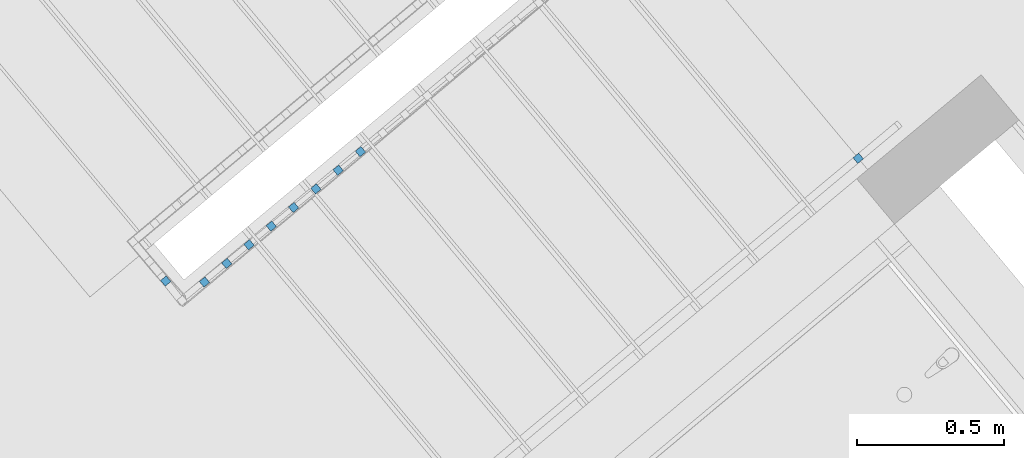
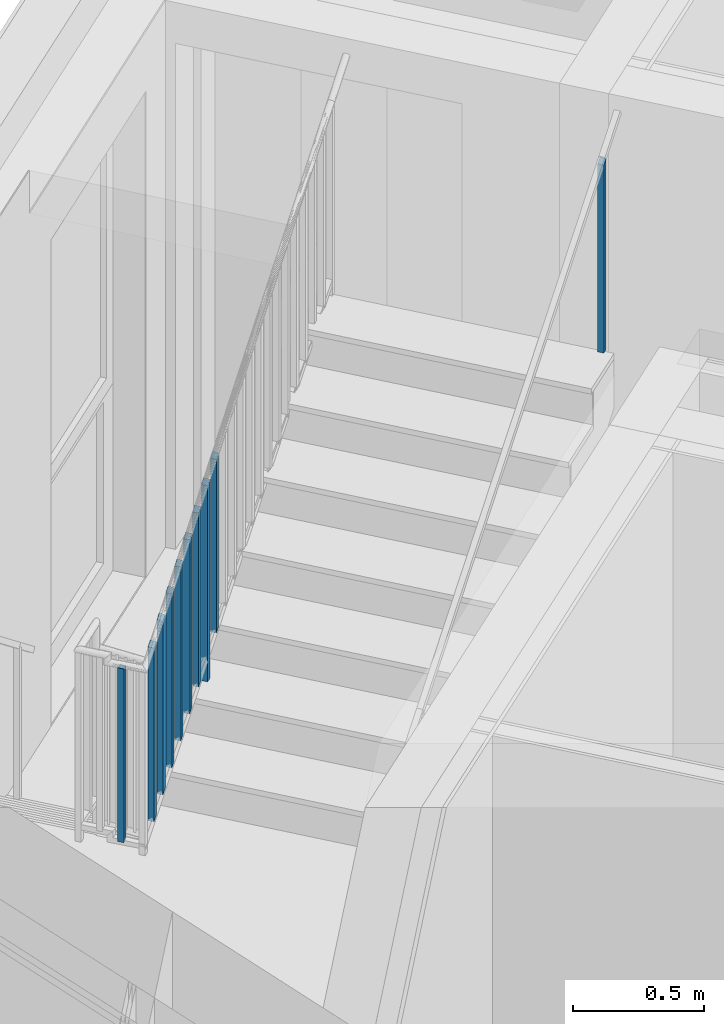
# One storey, part 39 of 50: 10 building element parts, 2 elements without a shape of their own.
"""IFC4 building model written with IfcOpenShell, lengths in metres."""

from ifc_helpers import new_model, entity, si_unit, converted_unit, derived_unit, direction, frame, origin_with_axes, place, context, subcontext, project, spatial, polygons, material, type_object, element, aggregate, save


model = new_model("IFC4")

# Units and contexts
model_context = context("Model", 3, precision=1e-05, world=origin_with_axes(), true_north=direction((0.0, 1.0)))
body_context = subcontext(model_context, "Body", "Model", "MODEL_VIEW")
ifc_project = project(units=[si_unit("LENGTHUNIT", "METRE"), si_unit("AREAUNIT", "SQUARE_METRE"), si_unit("VOLUMEUNIT", "CUBIC_METRE"), converted_unit("PLANEANGLEUNIT", "DEGREE", entity("IfcPlaneAngleMeasure", 0.0174532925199), si_unit("PLANEANGLEUNIT", "RADIAN"), dimensions=[0, 0, 0, 0, 0, 0, 0]), converted_unit("TIMEUNIT", "Year", entity("IfcTimeMeasure", 31556926.0), si_unit("TIMEUNIT", "SECOND"), dimensions=[0, 0, 1, 0, 0, 0, 0]), si_unit("MASSUNIT", "GRAM", prefix="KILO"), si_unit("THERMODYNAMICTEMPERATUREUNIT", "DEGREE_CELSIUS"), si_unit("LUMINOUSINTENSITYUNIT", "LUMEN"), si_unit("ENERGYUNIT", "JOULE", prefix="MEGA"), derived_unit("THERMALCONDUCTANCEUNIT", [(si_unit("POWERUNIT", "WATT"), 1), (si_unit("LENGTHUNIT", "METRE"), -1), (si_unit("THERMODYNAMICTEMPERATUREUNIT", "KELVIN"), -1)]), derived_unit("SPECIFICHEATCAPACITYUNIT", [(si_unit("ENERGYUNIT", "JOULE"), 1), (si_unit("MASSUNIT", "GRAM", prefix="KILO"), -1), (si_unit("THERMODYNAMICTEMPERATUREUNIT", "KELVIN"), -1)]), derived_unit("MASSDENSITYUNIT", [(si_unit("MASSUNIT", "GRAM", prefix="KILO"), 1), (si_unit("VOLUMEUNIT", "CUBIC_METRE"), -1)])], contexts=[model_context])

# Site, building, storey
site_placement = place(None, frame((-0.00153261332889, -0.00661245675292, 0.0), z_axis=(0.0, 0.0, 1.0), x_axis=(1.0, 0.0, 0.0)))
site = spatial("IfcSite", under=ifc_project, at=site_placement, Name="Site", CompositionType="ELEMENT")
building_placement = place(site_placement, origin_with_axes())
building = spatial("IfcBuilding", under=site, at=building_placement, Name="Building", CompositionType="ELEMENT")
storey_placement = place(building_placement, frame((0.0, 0.0, 2.74), z_axis=(0.0, 0.0, 1.0), x_axis=(1.0, 0.0, 0.0)))
storey = spatial("IfcBuildingStorey", under=building, at=storey_placement, Name="OG1", CompositionType="ELEMENT", Elevation=2.74)

# Railing, building element parts
railing_type = type_object("IfcRailingType", Name="Geländerart", PredefinedType="NOTDEFINED")
railing_1_placement = place(storey_placement, frame((-0.398547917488, 23.8355657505, 0.05), z_axis=(0.0, 0.0, 1.0), x_axis=(1.0, 0.0, 0.0)))
railing_1 = element("IfcRailing", 1, at=railing_1_placement, inside=storey, type_object=railing_type, Name="Geländer - 001", PredefinedType="NOTDEFINED")
ifc_material = material(Name="BEKLEIDUNG")
building_element_part_1_placement = place(railing_1_placement, origin_with_axes())
building_element_part_1 = element("IfcBuildingElementPart", 2, at=building_element_part_1_placement, material=ifc_material, Name="BEKLEIDUNG", PredefinedType="NOTDEFINED", context=body_context, shape_type="Tessellation", body=[
    polygons([(-1.7035806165, -1.60032774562, 1.80989887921), (-1.6843964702, -1.5842975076, 1.80989887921), (-1.6843964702, -1.5842975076, 2.61739887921), (-1.7035806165, -1.60032774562, 2.61739887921), (-1.71961085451, -1.58114359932, 1.80989887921), (-1.70042670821, -1.5651133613, 1.80989887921), (-1.70042670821, -1.5651133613, 2.61739887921), (-1.71961085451, -1.58114359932, 2.61739887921)], [[[1, 2, 3, 4]], [[1, 5, 6, 2]], [[2, 6, 7, 3]], [[4, 3, 7, 8]], [[5, 1, 4, 8]], [[6, 5, 8, 7]]], closed=True),
])
building_element_part_2_placement = place(railing_1_placement, origin_with_axes())
building_element_part_2 = element("IfcBuildingElementPart", 3, at=building_element_part_2_placement, material=ifc_material, Name="BEKLEIDUNG", PredefinedType="NOTDEFINED", context=body_context, shape_type="Tessellation", body=[
    polygons([(-1.55322027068, -1.58760797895, 1.87805222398), (-1.5692505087, -1.56842383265, 1.87805222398), (-1.5692505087, -1.56842383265, 2.68555222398), (-1.55322027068, -1.58760797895, 2.68555222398), (-1.57240441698, -1.60363821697, 1.86270754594), (-1.588434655, -1.58445407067, 1.86270754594), (-1.588434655, -1.58445407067, 2.67020754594), (-1.57240441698, -1.60363821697, 2.67020754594)], [[[1, 2, 3, 4]], [[1, 5, 6, 2]], [[2, 6, 7, 3]], [[4, 3, 7, 8]], [[5, 1, 4, 8]], [[6, 5, 8, 7]]], closed=True),
])
building_element_part_3_placement = place(railing_1_placement, origin_with_axes())
building_element_part_3 = element("IfcBuildingElementPart", 4, at=building_element_part_3_placement, material=ifc_material, Name="BEKLEIDUNG", PredefinedType="NOTDEFINED", context=body_context, shape_type="Tessellation", body=[
    polygons([(-1.4776060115, -1.52442484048, 1.93853322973), (-1.49363624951, -1.50524069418, 1.93853322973), (-1.49363624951, -1.50524069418, 2.74603322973), (-1.4776060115, -1.52442484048, 2.74603322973), (-1.4967901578, -1.54045507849, 1.92318855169), (-1.51282039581, -1.52127093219, 1.92318855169), (-1.51282039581, -1.52127093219, 2.73068855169), (-1.4967901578, -1.54045507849, 2.73068855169)], [[[1, 2, 3, 4]], [[1, 5, 6, 2]], [[2, 6, 7, 3]], [[4, 3, 7, 8]], [[5, 1, 4, 8]], [[6, 5, 8, 7]]], closed=True),
])
building_element_part_4_placement = place(railing_1_placement, origin_with_axes())
building_element_part_4 = element("IfcBuildingElementPart", 5, at=building_element_part_4_placement, material=ifc_material, Name="BEKLEIDUNG", PredefinedType="NOTDEFINED", context=body_context, shape_type="Tessellation", body=[
    polygons([(-1.40199175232, -1.461241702, 1.99901423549), (-1.41802199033, -1.4420575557, 1.99901423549), (-1.41802199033, -1.4420575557, 2.80651423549), (-1.40199175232, -1.461241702, 2.80651423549), (-1.42117589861, -1.47727194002, 1.98366955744), (-1.43720613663, -1.45808779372, 1.98366955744), (-1.43720613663, -1.45808779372, 2.79116955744), (-1.42117589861, -1.47727194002, 2.79116955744)], [[[1, 2, 3, 4]], [[1, 5, 6, 2]], [[2, 6, 7, 3]], [[4, 3, 7, 8]], [[5, 1, 4, 8]], [[6, 5, 8, 7]]], closed=True),
])
building_element_part_5_placement = place(railing_1_placement, origin_with_axes())
building_element_part_5 = element("IfcBuildingElementPart", 6, at=building_element_part_5_placement, material=ifc_material, Name="BEKLEIDUNG", PredefinedType="NOTDEFINED", context=body_context, shape_type="Tessellation", body=[
    polygons([(-1.32637749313, -1.39805856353, 2.05949524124), (-1.34240773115, -1.37887441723, 2.05949524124), (-1.34240773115, -1.37887441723, 2.86699524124), (-1.32637749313, -1.39805856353, 2.86699524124), (-1.34556163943, -1.41408880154, 2.04415056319), (-1.36159187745, -1.39490465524, 2.04415056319), (-1.36159187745, -1.39490465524, 2.85165056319), (-1.34556163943, -1.41408880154, 2.85165056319)], [[[1, 2, 3, 4]], [[1, 5, 6, 2]], [[2, 6, 7, 3]], [[4, 3, 7, 8]], [[5, 1, 4, 8]], [[6, 5, 8, 7]]], closed=True),
])
building_element_part_6_placement = place(railing_1_placement, origin_with_axes())
building_element_part_6 = element("IfcBuildingElementPart", 7, at=building_element_part_6_placement, material=ifc_material, Name="BEKLEIDUNG", PredefinedType="NOTDEFINED", context=body_context, shape_type="Tessellation", body=[
    polygons([(-1.25076323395, -1.33487542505, 2.11997624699), (-1.26679347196, -1.31569127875, 2.11997624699), (-1.26679347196, -1.31569127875, 2.92747624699), (-1.25076323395, -1.33487542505, 2.92747624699), (-1.26994738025, -1.35090566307, 2.10463156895), (-1.28597761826, -1.33172151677, 2.10463156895), (-1.28597761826, -1.33172151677, 2.91213156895), (-1.26994738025, -1.35090566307, 2.91213156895)], [[[1, 2, 3, 4]], [[1, 5, 6, 2]], [[2, 6, 7, 3]], [[4, 3, 7, 8]], [[5, 1, 4, 8]], [[6, 5, 8, 7]]], closed=True),
])
building_element_part_7_placement = place(railing_1_placement, origin_with_axes())
building_element_part_7 = element("IfcBuildingElementPart", 8, at=building_element_part_7_placement, material=ifc_material, Name="BEKLEIDUNG", PredefinedType="NOTDEFINED", context=body_context, shape_type="Tessellation", body=[
    polygons([(-1.17514897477, -1.27169228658, 2.18045725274), (-1.19117921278, -1.25250814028, 2.18045725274), (-1.19117921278, -1.25250814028, 2.98795725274), (-1.17514897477, -1.27169228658, 2.98795725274), (-1.19433312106, -1.28772252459, 2.1651125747), (-1.21036335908, -1.26853837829, 2.1651125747), (-1.21036335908, -1.26853837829, 2.9726125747), (-1.19433312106, -1.28772252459, 2.9726125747)], [[[1, 2, 3, 4]], [[1, 5, 6, 2]], [[2, 6, 7, 3]], [[4, 3, 7, 8]], [[5, 1, 4, 8]], [[6, 5, 8, 7]]], closed=True),
])
building_element_part_8_placement = place(railing_1_placement, origin_with_axes())
building_element_part_8 = element("IfcBuildingElementPart", 9, at=building_element_part_8_placement, material=ifc_material, Name="BEKLEIDUNG", PredefinedType="NOTDEFINED", context=body_context, shape_type="Tessellation", body=[
    polygons([(-1.09953471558, -1.2085091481, 2.12470588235), (-1.1155649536, -1.1893250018, 2.12470588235), (-1.1155649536, -1.1893250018, 3.05093825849), (-1.09953471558, -1.2085091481, 3.05093825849), (-1.11871886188, -1.22453938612, 2.12470588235), (-1.13474909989, -1.20535523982, 2.12470588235), (-1.13474909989, -1.20535523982, 3.03559358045), (-1.11871886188, -1.22453938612, 3.03559358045)], [[[1, 2, 3, 4]], [[1, 5, 6, 2]], [[2, 6, 7, 3]], [[4, 3, 7, 8]], [[5, 1, 4, 8]], [[6, 5, 8, 7]]], closed=True),
])
building_element_part_9_placement = place(railing_1_placement, origin_with_axes())
building_element_part_9 = element("IfcBuildingElementPart", 10, at=building_element_part_9_placement, material=ifc_material, Name="BEKLEIDUNG", PredefinedType="NOTDEFINED", context=body_context, shape_type="Tessellation", body=[
    polygons([(-1.0239204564, -1.14532600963, 2.30141926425), (-1.03995069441, -1.12614186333, 2.30141926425), (-1.03995069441, -1.12614186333, 3.10891926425), (-1.0239204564, -1.14532600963, 3.10891926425), (-1.0431046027, -1.16135624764, 2.2860745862), (-1.05913484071, -1.14217210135, 2.2860745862), (-1.05913484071, -1.14217210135, 3.0935745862), (-1.0431046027, -1.16135624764, 3.0935745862)], [[[1, 2, 3, 4]], [[1, 5, 6, 2]], [[2, 6, 7, 3]], [[4, 3, 7, 8]], [[5, 1, 4, 8]], [[6, 5, 8, 7]]], closed=True),
])
aggregate(railing_1, [building_element_part_1, building_element_part_2, building_element_part_3, building_element_part_4, building_element_part_5, building_element_part_6, building_element_part_7, building_element_part_8, building_element_part_9])

# Railing, building element part
railing_2_placement = place(storey_placement, frame((-1.26480795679, 21.3396367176, 1.82058823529), z_axis=(0.0, 0.0, 1.0), x_axis=(1.0, 0.0, 0.0)))
railing_2 = element("IfcRailing", 11, at=railing_2_placement, inside=storey, type_object=railing_type, Name="Geländer - 002", PredefinedType="NOTDEFINED")
building_element_part_10_placement = place(railing_2_placement, origin_with_axes())
building_element_part_10 = element("IfcBuildingElementPart", 12, at=building_element_part_10_placement, material=ifc_material, Name="BEKLEIDUNG", PredefinedType="NOTDEFINED", context=body_context, shape_type="Tessellation", body=[
    polygons([(1.53065542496, 1.32788138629, 1.23941176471), (1.51462518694, 1.34706553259, 1.23941176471), (1.51462518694, 1.34706553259, 2.12710606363), (1.53065542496, 1.32788138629, 2.12710606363), (1.51147127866, 1.31185114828, 1.23941176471), (1.49544104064, 1.33103529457, 1.23941176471), (1.49544104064, 1.33103529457, 2.11171746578), (1.51147127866, 1.31185114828, 2.11171746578)], [[[1, 2, 3, 4]], [[1, 5, 6, 2]], [[2, 6, 7, 3]], [[4, 3, 7, 8]], [[5, 1, 4, 8]], [[6, 5, 8, 7]]], closed=True),
])
aggregate(railing_2, [building_element_part_10])

save(model, "model.ifc")
